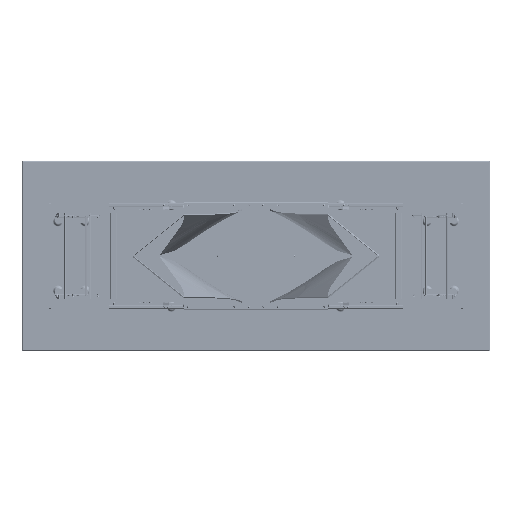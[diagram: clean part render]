
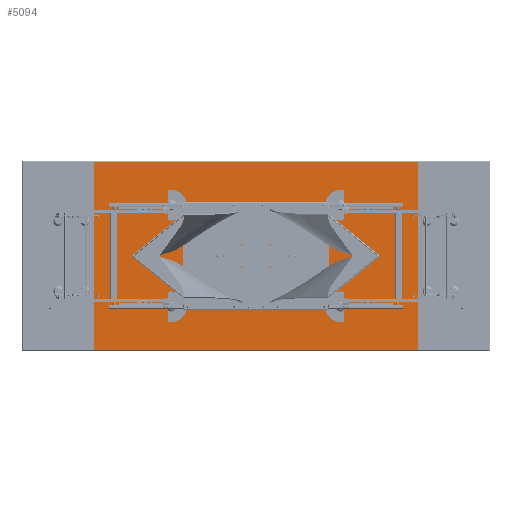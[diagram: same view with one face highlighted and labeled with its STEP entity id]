
A CAD part, front view. The second image highlights one B-rep face of the part: STEP entity #5094.
In plain terms, the highlighted planar face has unit normal (0, -1, 0).
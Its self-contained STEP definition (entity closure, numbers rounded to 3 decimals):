
#5094 = ADVANCED_FACE ( 'NONE', ( #6986 ), #37065, .F. ) ;
#5525 = EDGE_CURVE ( 'NONE', #25184, #37847, #35350, .T. ) ;
#6755 = CARTESIAN_POINT ( 'NONE',  ( 900., 0., -524. ) ) ;
#6986 = FACE_OUTER_BOUND ( 'NONE', #67715, .T. ) ;
#9245 = DIRECTION ( 'NONE',  ( 0., 0., -1. ) ) ;
#9394 = CARTESIAN_POINT ( 'NONE',  ( 0., 0., -524. ) ) ;
#9647 = LINE ( 'NONE', #49475, #30397 ) ;
#15761 = DIRECTION ( 'NONE',  ( 0., 0., -1. ) ) ;
#17368 = ORIENTED_EDGE ( 'NONE', *, *, #5525, .T. ) ;
#18506 = CARTESIAN_POINT ( 'NONE',  ( -900., 0., 524. ) ) ;
#18939 = DIRECTION ( 'NONE',  ( 0., 0., 1. ) ) ;
#20068 = AXIS2_PLACEMENT_3D ( 'NONE', #25111, #50204, #18939 ) ;
#21949 = CARTESIAN_POINT ( 'NONE',  ( 900., 0., 530. ) ) ;
#23148 = VERTEX_POINT ( 'NONE', #74279 ) ;
#25111 = CARTESIAN_POINT ( 'NONE',  ( 0., 0., 0. ) ) ;
#25184 = VERTEX_POINT ( 'NONE', #76567 ) ;
#26590 = EDGE_CURVE ( 'NONE', #23148, #37847, #67903, .T. ) ;
#29562 = DIRECTION ( 'NONE',  ( 1., 0., 0. ) ) ;
#30397 = VECTOR ( 'NONE', #9245, 1000. ) ;
#30745 = ORIENTED_EDGE ( 'NONE', *, *, #70152, .T. ) ;
#33486 = VERTEX_POINT ( 'NONE', #18506 ) ;
#35350 = LINE ( 'NONE', #9394, #41112 ) ;
#35509 = ORIENTED_EDGE ( 'NONE', *, *, #26590, .F. ) ;
#37065 = PLANE ( 'NONE',  #20068 ) ;
#37847 = VERTEX_POINT ( 'NONE', #6755 ) ;
#40905 = VECTOR ( 'NONE', #55637, 1000. ) ;
#41112 = VECTOR ( 'NONE', #29562, 1000. ) ;
#49063 = CARTESIAN_POINT ( 'NONE',  ( -900., 0., 524. ) ) ;
#49475 = CARTESIAN_POINT ( 'NONE',  ( -900., 0., 530. ) ) ;
#50204 = DIRECTION ( 'NONE',  ( 0., 1., 0. ) ) ;
#55637 = DIRECTION ( 'NONE',  ( -1., 0., 0. ) ) ;
#57455 = LINE ( 'NONE', #49063, #40905 ) ;
#60805 = ORIENTED_EDGE ( 'NONE', *, *, #70158, .T. ) ;
#67715 = EDGE_LOOP ( 'NONE', ( #60805, #17368, #35509, #30745 ) ) ;
#67903 = LINE ( 'NONE', #21949, #78631 ) ;
#70152 = EDGE_CURVE ( 'NONE', #23148, #33486, #57455, .T. ) ;
#70158 = EDGE_CURVE ( 'NONE', #33486, #25184, #9647, .T. ) ;
#74279 = CARTESIAN_POINT ( 'NONE',  ( 900., 0., 524. ) ) ;
#76567 = CARTESIAN_POINT ( 'NONE',  ( -900., 0., -524. ) ) ;
#78631 = VECTOR ( 'NONE', #15761, 1000. ) ;
